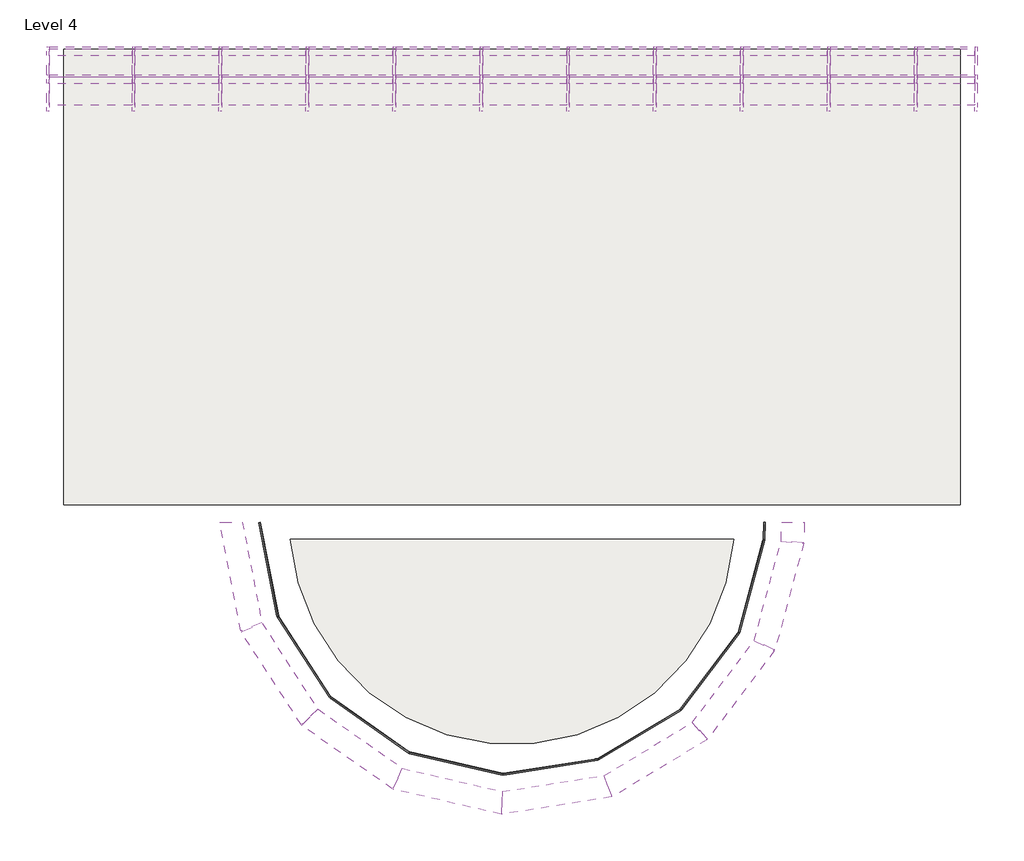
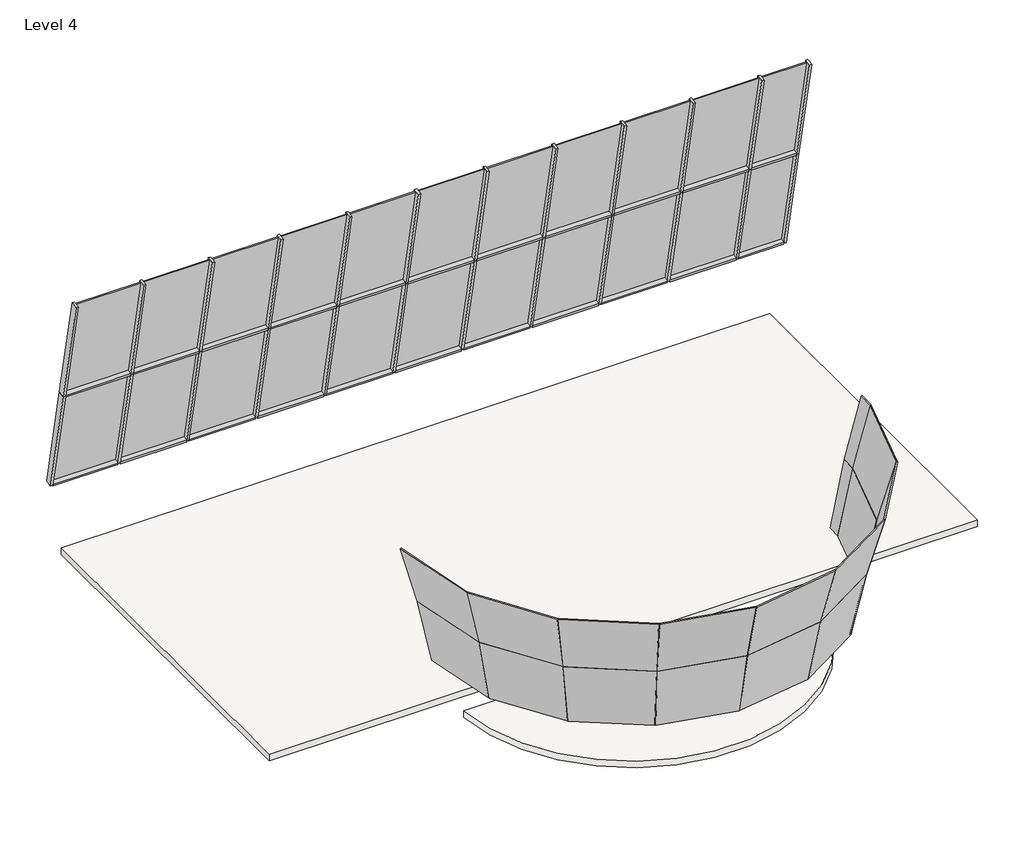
# One storey: 46 members, 40 plates, 2 slabs.
"""IFC4 building model written with IfcOpenShell, lengths in millimetres."""

from ifc_helpers import new_model, si_unit, point, frame, frame_2d, origin, place, context, project, spatial, polyline, circle_curve, trimmed, segment, composite_curve, outline, extrude, transform, mapped, element, save
from components import rectangular_mullion_50_x_150mm_662c37b1, rectangular_mullion_50_x_150mm_1f4d75dd, rectangular_mullion_50_x_150mm_f0154c62, rectangular_mullion_50_x_150mm_b8d1d5e0, rectangular_mullion_50_x_150mm_6225e4e3, system_panel_glazed_129cb0d4, system_panel_glazed_b38f2dba, system_panel_glazed_1b308fc3, system_panel_glazed_42407800, system_panel_glazed_b83901a0, system_panel_glazed_fd0177c3, system_panel_glazed_b045e314

model = new_model("IFC4")

# Units and contexts
model_context = context("Model", 3, world=origin())
ifc_project = project(units=[si_unit("LENGTHUNIT", "METRE", prefix="MILLI")], contexts=[model_context])

# Site, building, storey
site = spatial("IfcSite", under=ifc_project)
building = spatial("IfcBuilding", under=site)
storey = spatial("IfcBuildingStorey", under=building, Name="Level 4", Elevation=12000.0)

# Members
placement = place(None, origin())
rectangular_mullion_50_x_150mm_shape = rectangular_mullion_50_x_150mm_662c37b1(model_context)
element("IfcMember", 1, ObjectType="Rectangular Mullion : 50 x 150mm", at=placement, inside=storey, context=model_context, shape_type="MappedRepresentation", body=[
    mapped(rectangular_mullion_50_x_150mm_shape, transform((7953.3508723, 6033.5148558, 15962.2496377), x_axis=(1.0, 0.0, 0.0), y_axis=(0.0, 0.9794896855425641, 0.20149430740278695), z_axis=(0.0, -0.20149430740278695, 0.9794896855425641))),
])
element("IfcMember", 2, ObjectType="Rectangular Mullion : 50 x 150mm", at=placement, inside=storey, context=model_context, shape_type="MappedRepresentation", body=[
    mapped(rectangular_mullion_50_x_150mm_shape, transform((7953.3508723, 5549.9285181, 18313.024883), x_axis=(1.0, 0.0, 0.0), y_axis=(0.0, 0.9794896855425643, 0.20149430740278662), z_axis=(0.0, -0.20149430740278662, 0.9794896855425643))),
])
element("IfcMember", 3, ObjectType="Rectangular Mullion : 50 x 150mm", at=placement, inside=storey, context=model_context, shape_type="MappedRepresentation", body=[
    mapped(rectangular_mullion_50_x_150mm_shape, transform((-8113.532296, 6517.1011936, 13611.4743924), x_axis=(-1.0, 0.0, 0.0), y_axis=(0.0, 0.9794896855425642, 0.20149430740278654), z_axis=(0.0, 0.2014943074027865, -0.9794896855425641))),
])
element("IfcMember", 4, ObjectType="Rectangular Mullion : 50 x 150mm", at=placement, inside=storey, context=model_context, shape_type="MappedRepresentation", body=[
    mapped(rectangular_mullion_50_x_150mm_shape, transform((-8113.532296, 6033.5148558, 15962.2496377), x_axis=(-1.0, 0.0, 0.0), y_axis=(0.0, 0.9794896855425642, 0.20149430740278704), z_axis=(0.0, 0.20149430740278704, -0.9794896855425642))),
])
rectangular_mullion_50_x_150mm_2_shape = rectangular_mullion_50_x_150mm_1f4d75dd(model_context)
element("IfcMember", 5, ObjectType="Rectangular Mullion : 50 x 150mm", at=placement, inside=storey, context=model_context, shape_type="MappedRepresentation", body=[
    mapped(rectangular_mullion_50_x_150mm_2_shape, transform((-8063.532296, 6517.1011936, 13611.4743924), x_axis=(0.0, -0.2014943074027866, 0.9794896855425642), y_axis=(0.0, 0.9794896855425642, 0.2014943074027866), z_axis=(-1.0, 0.0, 0.0))),
])
element("IfcMember", 6, ObjectType="Rectangular Mullion : 50 x 150mm", at=placement, inside=storey, context=model_context, shape_type="MappedRepresentation", body=[
    mapped(rectangular_mullion_50_x_150mm_2_shape, transform((-8063.532296, 6033.5148558, 15962.2496377), x_axis=(0.0, -0.2014943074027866, 0.9794896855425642), y_axis=(0.0, 0.9794896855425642, 0.2014943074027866), z_axis=(-1.0, 0.0, 0.0))),
])
rectangular_mullion_50_x_150mm_3_shape = rectangular_mullion_50_x_150mm_f0154c62(model_context)
element("IfcMember", 7, ObjectType="Rectangular Mullion : 50 x 150mm", at=placement, inside=storey, context=model_context, shape_type="MappedRepresentation", body=[
    mapped(rectangular_mullion_50_x_150mm_3_shape, transform((-6588.532296, 6517.1011936, 13611.4743924), x_axis=(0.0, -0.2014943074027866, 0.9794896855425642), y_axis=(0.0, 0.9794896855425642, 0.2014943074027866), z_axis=(-1.0, 0.0, 0.0))),
])
element("IfcMember", 8, ObjectType="Rectangular Mullion : 50 x 150mm", at=placement, inside=storey, context=model_context, shape_type="MappedRepresentation", body=[
    mapped(rectangular_mullion_50_x_150mm_3_shape, transform((-5088.532296, 6517.1011936, 13611.4743924), x_axis=(0.0, -0.2014943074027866, 0.9794896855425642), y_axis=(0.0, 0.9794896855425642, 0.2014943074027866), z_axis=(-1.0, 0.0, 0.0))),
])
element("IfcMember", 9, ObjectType="Rectangular Mullion : 50 x 150mm", at=placement, inside=storey, context=model_context, shape_type="MappedRepresentation", body=[
    mapped(rectangular_mullion_50_x_150mm_3_shape, transform((-3588.532296, 6517.1011936, 13611.4743924), x_axis=(0.0, -0.2014943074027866, 0.9794896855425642), y_axis=(0.0, 0.9794896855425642, 0.2014943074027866), z_axis=(-1.0, 0.0, 0.0))),
])
element("IfcMember", 10, ObjectType="Rectangular Mullion : 50 x 150mm", at=placement, inside=storey, context=model_context, shape_type="MappedRepresentation", body=[
    mapped(rectangular_mullion_50_x_150mm_3_shape, transform((-2088.532296, 6517.1011936, 13611.4743924), x_axis=(0.0, -0.2014943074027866, 0.9794896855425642), y_axis=(0.0, 0.9794896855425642, 0.2014943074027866), z_axis=(-1.0, 0.0, 0.0))),
])
element("IfcMember", 11, ObjectType="Rectangular Mullion : 50 x 150mm", at=placement, inside=storey, context=model_context, shape_type="MappedRepresentation", body=[
    mapped(rectangular_mullion_50_x_150mm_3_shape, transform((-588.532296, 6517.1011936, 13611.4743924), x_axis=(0.0, -0.2014943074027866, 0.9794896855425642), y_axis=(0.0, 0.9794896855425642, 0.2014943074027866), z_axis=(-1.0, 0.0, 0.0))),
])
element("IfcMember", 12, ObjectType="Rectangular Mullion : 50 x 150mm", at=placement, inside=storey, context=model_context, shape_type="MappedRepresentation", body=[
    mapped(rectangular_mullion_50_x_150mm_3_shape, transform((911.467704, 6517.1011936, 13611.4743924), x_axis=(0.0, -0.2014943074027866, 0.9794896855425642), y_axis=(0.0, 0.9794896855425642, 0.2014943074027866), z_axis=(-1.0, 0.0, 0.0))),
])
element("IfcMember", 13, ObjectType="Rectangular Mullion : 50 x 150mm", at=placement, inside=storey, context=model_context, shape_type="MappedRepresentation", body=[
    mapped(rectangular_mullion_50_x_150mm_3_shape, transform((2411.467704, 6517.1011936, 13611.4743924), x_axis=(0.0, -0.2014943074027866, 0.9794896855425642), y_axis=(0.0, 0.9794896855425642, 0.2014943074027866), z_axis=(-1.0, 0.0, 0.0))),
])
element("IfcMember", 14, ObjectType="Rectangular Mullion : 50 x 150mm", at=placement, inside=storey, context=model_context, shape_type="MappedRepresentation", body=[
    mapped(rectangular_mullion_50_x_150mm_3_shape, transform((3911.467704, 6517.1011936, 13611.4743924), x_axis=(0.0, -0.2014943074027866, 0.9794896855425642), y_axis=(0.0, 0.9794896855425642, 0.2014943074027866), z_axis=(-1.0, 0.0, 0.0))),
])
element("IfcMember", 15, ObjectType="Rectangular Mullion : 50 x 150mm", at=placement, inside=storey, context=model_context, shape_type="MappedRepresentation", body=[
    mapped(rectangular_mullion_50_x_150mm_3_shape, transform((5411.467704, 6517.1011936, 13611.4743924), x_axis=(0.0, -0.2014943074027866, 0.9794896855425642), y_axis=(0.0, 0.9794896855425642, 0.2014943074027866), z_axis=(-1.0, 0.0, 0.0))),
])
element("IfcMember", 16, ObjectType="Rectangular Mullion : 50 x 150mm", at=placement, inside=storey, context=model_context, shape_type="MappedRepresentation", body=[
    mapped(rectangular_mullion_50_x_150mm_3_shape, transform((-6588.532296, 6033.5148558, 15962.2496377), x_axis=(0.0, -0.2014943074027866, 0.9794896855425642), y_axis=(0.0, 0.9794896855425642, 0.2014943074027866), z_axis=(-1.0, 0.0, 0.0))),
])
element("IfcMember", 17, ObjectType="Rectangular Mullion : 50 x 150mm", at=placement, inside=storey, context=model_context, shape_type="MappedRepresentation", body=[
    mapped(rectangular_mullion_50_x_150mm_3_shape, transform((-5088.532296, 6033.5148558, 15962.2496377), x_axis=(0.0, -0.2014943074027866, 0.9794896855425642), y_axis=(0.0, 0.9794896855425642, 0.2014943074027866), z_axis=(-1.0, 0.0, 0.0))),
])
element("IfcMember", 18, ObjectType="Rectangular Mullion : 50 x 150mm", at=placement, inside=storey, context=model_context, shape_type="MappedRepresentation", body=[
    mapped(rectangular_mullion_50_x_150mm_3_shape, transform((-3588.532296, 6033.5148558, 15962.2496377), x_axis=(0.0, -0.2014943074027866, 0.9794896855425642), y_axis=(0.0, 0.9794896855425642, 0.2014943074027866), z_axis=(-1.0, 0.0, 0.0))),
])
element("IfcMember", 19, ObjectType="Rectangular Mullion : 50 x 150mm", at=placement, inside=storey, context=model_context, shape_type="MappedRepresentation", body=[
    mapped(rectangular_mullion_50_x_150mm_3_shape, transform((-2088.532296, 6033.5148558, 15962.2496377), x_axis=(0.0, -0.2014943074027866, 0.9794896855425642), y_axis=(0.0, 0.9794896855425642, 0.2014943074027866), z_axis=(-1.0, 0.0, 0.0))),
])
element("IfcMember", 20, ObjectType="Rectangular Mullion : 50 x 150mm", at=placement, inside=storey, context=model_context, shape_type="MappedRepresentation", body=[
    mapped(rectangular_mullion_50_x_150mm_3_shape, transform((-588.532296, 6033.5148558, 15962.2496377), x_axis=(0.0, -0.2014943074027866, 0.9794896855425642), y_axis=(0.0, 0.9794896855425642, 0.2014943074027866), z_axis=(-1.0, 0.0, 0.0))),
])
element("IfcMember", 21, ObjectType="Rectangular Mullion : 50 x 150mm", at=placement, inside=storey, context=model_context, shape_type="MappedRepresentation", body=[
    mapped(rectangular_mullion_50_x_150mm_3_shape, transform((911.467704, 6033.5148558, 15962.2496377), x_axis=(0.0, -0.2014943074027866, 0.9794896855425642), y_axis=(0.0, 0.9794896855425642, 0.2014943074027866), z_axis=(-1.0, 0.0, 0.0))),
])
element("IfcMember", 22, ObjectType="Rectangular Mullion : 50 x 150mm", at=placement, inside=storey, context=model_context, shape_type="MappedRepresentation", body=[
    mapped(rectangular_mullion_50_x_150mm_3_shape, transform((2411.467704, 6033.5148558, 15962.2496377), x_axis=(0.0, -0.2014943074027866, 0.9794896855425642), y_axis=(0.0, 0.9794896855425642, 0.2014943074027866), z_axis=(-1.0, 0.0, 0.0))),
])
element("IfcMember", 23, ObjectType="Rectangular Mullion : 50 x 150mm", at=placement, inside=storey, context=model_context, shape_type="MappedRepresentation", body=[
    mapped(rectangular_mullion_50_x_150mm_3_shape, transform((3911.467704, 6033.5148558, 15962.2496377), x_axis=(0.0, -0.2014943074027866, 0.9794896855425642), y_axis=(0.0, 0.9794896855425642, 0.2014943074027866), z_axis=(-1.0, 0.0, 0.0))),
])
element("IfcMember", 24, ObjectType="Rectangular Mullion : 50 x 150mm", at=placement, inside=storey, context=model_context, shape_type="MappedRepresentation", body=[
    mapped(rectangular_mullion_50_x_150mm_3_shape, transform((5411.467704, 6033.5148558, 15962.2496377), x_axis=(0.0, -0.2014943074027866, 0.9794896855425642), y_axis=(0.0, 0.9794896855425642, 0.2014943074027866), z_axis=(-1.0, 0.0, 0.0))),
])
rectangular_mullion_50_x_150mm_4_shape = rectangular_mullion_50_x_150mm_b8d1d5e0(model_context)
element("IfcMember", 25, ObjectType="Rectangular Mullion : 50 x 150mm", at=placement, inside=storey, context=model_context, shape_type="MappedRepresentation", body=[
    mapped(rectangular_mullion_50_x_150mm_4_shape, transform((6911.467704, 6517.1011936, 13611.4743924), x_axis=(0.0, -0.2014943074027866, 0.9794896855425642), y_axis=(0.0, 0.9794896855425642, 0.2014943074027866), z_axis=(-1.0, 0.0, 0.0))),
])
element("IfcMember", 26, ObjectType="Rectangular Mullion : 50 x 150mm", at=placement, inside=storey, context=model_context, shape_type="MappedRepresentation", body=[
    mapped(rectangular_mullion_50_x_150mm_4_shape, transform((6911.467704, 6033.5148558, 15962.2496377), x_axis=(0.0, -0.2014943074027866, 0.9794896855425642), y_axis=(0.0, 0.9794896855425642, 0.2014943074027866), z_axis=(-1.0, 0.0, 0.0))),
])
rectangular_mullion_50_x_150mm_5_shape = rectangular_mullion_50_x_150mm_6225e4e3(model_context)
element("IfcMember", 27, ObjectType="Rectangular Mullion : 50 x 150mm", at=placement, inside=storey, context=model_context, shape_type="MappedRepresentation", body=[
    mapped(rectangular_mullion_50_x_150mm_5_shape, transform((-6613.532296, 6033.5148558, 15962.2496377), x_axis=(1.0, 0.0, 0.0), y_axis=(0.0, 0.9794896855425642, 0.2014943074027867), z_axis=(0.0, -0.2014943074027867, 0.9794896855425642))),
])
element("IfcMember", 28, ObjectType="Rectangular Mullion : 50 x 150mm", at=placement, inside=storey, context=model_context, shape_type="MappedRepresentation", body=[
    mapped(rectangular_mullion_50_x_150mm_5_shape, transform((-5113.532296, 6033.5148558, 15962.2496377), x_axis=(1.0, 0.0, 0.0), y_axis=(0.0, 0.9794896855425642, 0.2014943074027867), z_axis=(0.0, -0.2014943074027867, 0.9794896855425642))),
])
element("IfcMember", 29, ObjectType="Rectangular Mullion : 50 x 150mm", at=placement, inside=storey, context=model_context, shape_type="MappedRepresentation", body=[
    mapped(rectangular_mullion_50_x_150mm_5_shape, transform((-3613.532296, 6033.5148558, 15962.2496377), x_axis=(1.0, 0.0, 0.0), y_axis=(0.0, 0.9794896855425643, 0.2014943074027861), z_axis=(0.0, -0.20149430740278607, 0.9794896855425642))),
])
element("IfcMember", 30, ObjectType="Rectangular Mullion : 50 x 150mm", at=placement, inside=storey, context=model_context, shape_type="MappedRepresentation", body=[
    mapped(rectangular_mullion_50_x_150mm_5_shape, transform((-2113.532296, 6033.5148558, 15962.2496377), x_axis=(1.0, 0.0, 0.0), y_axis=(0.0, 0.9794896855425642, 0.2014943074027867), z_axis=(0.0, -0.2014943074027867, 0.9794896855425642))),
])
element("IfcMember", 31, ObjectType="Rectangular Mullion : 50 x 150mm", at=placement, inside=storey, context=model_context, shape_type="MappedRepresentation", body=[
    mapped(rectangular_mullion_50_x_150mm_5_shape, transform((-613.532296, 6033.5148558, 15962.2496377), x_axis=(1.0, 0.0, 0.0), y_axis=(0.0, 0.9794896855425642, 0.2014943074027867), z_axis=(0.0, -0.2014943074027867, 0.9794896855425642))),
])
element("IfcMember", 32, ObjectType="Rectangular Mullion : 50 x 150mm", at=placement, inside=storey, context=model_context, shape_type="MappedRepresentation", body=[
    mapped(rectangular_mullion_50_x_150mm_5_shape, transform((886.467704, 6033.5148558, 15962.2496377), x_axis=(1.0, 0.0, 0.0), y_axis=(0.0, 0.9794896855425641, 0.20149430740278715), z_axis=(0.0, -0.20149430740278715, 0.9794896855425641))),
])
element("IfcMember", 33, ObjectType="Rectangular Mullion : 50 x 150mm", at=placement, inside=storey, context=model_context, shape_type="MappedRepresentation", body=[
    mapped(rectangular_mullion_50_x_150mm_5_shape, transform((2386.467704, 6033.5148558, 15962.2496377), x_axis=(1.0, 0.0, 0.0), y_axis=(0.0, 0.9794896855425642, 0.2014943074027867), z_axis=(0.0, -0.2014943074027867, 0.9794896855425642))),
])
element("IfcMember", 34, ObjectType="Rectangular Mullion : 50 x 150mm", at=placement, inside=storey, context=model_context, shape_type="MappedRepresentation", body=[
    mapped(rectangular_mullion_50_x_150mm_5_shape, transform((3886.467704, 6033.5148558, 15962.2496377), x_axis=(1.0, 0.0, 0.0), y_axis=(0.0, 0.9794896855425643, 0.2014943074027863), z_axis=(0.0, -0.2014943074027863, 0.9794896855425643))),
])
element("IfcMember", 35, ObjectType="Rectangular Mullion : 50 x 150mm", at=placement, inside=storey, context=model_context, shape_type="MappedRepresentation", body=[
    mapped(rectangular_mullion_50_x_150mm_5_shape, transform((5386.467704, 6033.5148558, 15962.2496377), x_axis=(1.0, 0.0, 0.0), y_axis=(0.0, 0.9794896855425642, 0.2014943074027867), z_axis=(0.0, -0.2014943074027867, 0.9794896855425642))),
])
element("IfcMember", 36, ObjectType="Rectangular Mullion : 50 x 150mm", at=placement, inside=storey, context=model_context, shape_type="MappedRepresentation", body=[
    mapped(rectangular_mullion_50_x_150mm_5_shape, transform((6886.467704, 6033.5148558, 15962.2496377), x_axis=(1.0, 0.0, 0.0), y_axis=(0.0, 0.9794896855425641, 0.20149430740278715), z_axis=(0.0, -0.20149430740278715, 0.9794896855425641))),
])
element("IfcMember", 37, ObjectType="Rectangular Mullion : 50 x 150mm", at=placement, inside=storey, context=model_context, shape_type="MappedRepresentation", body=[
    mapped(rectangular_mullion_50_x_150mm_5_shape, transform((-6613.532296, 5549.9285181, 18313.024883), x_axis=(1.0, 0.0, 0.0), y_axis=(0.0, 0.9794896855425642, 0.20149430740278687), z_axis=(0.0, -0.20149430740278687, 0.9794896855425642))),
])
element("IfcMember", 38, ObjectType="Rectangular Mullion : 50 x 150mm", at=placement, inside=storey, context=model_context, shape_type="MappedRepresentation", body=[
    mapped(rectangular_mullion_50_x_150mm_5_shape, transform((-5113.532296, 5549.9285181, 18313.024883), x_axis=(1.0, 0.0, 0.0), y_axis=(0.0, 0.9794896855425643, 0.20149430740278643), z_axis=(0.0, -0.20149430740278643, 0.9794896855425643))),
])
element("IfcMember", 39, ObjectType="Rectangular Mullion : 50 x 150mm", at=placement, inside=storey, context=model_context, shape_type="MappedRepresentation", body=[
    mapped(rectangular_mullion_50_x_150mm_5_shape, transform((-3613.532296, 5549.9285181, 18313.024883), x_axis=(1.0, 0.0, 0.0), y_axis=(0.0, 0.9794896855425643, 0.20149430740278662), z_axis=(0.0, -0.20149430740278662, 0.9794896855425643))),
])
element("IfcMember", 40, ObjectType="Rectangular Mullion : 50 x 150mm", at=placement, inside=storey, context=model_context, shape_type="MappedRepresentation", body=[
    mapped(rectangular_mullion_50_x_150mm_5_shape, transform((-2113.532296, 5549.9285181, 18313.024883), x_axis=(1.0, 0.0, 0.0), y_axis=(0.0, 0.9794896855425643, 0.20149430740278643), z_axis=(0.0, -0.20149430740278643, 0.9794896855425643))),
])
element("IfcMember", 41, ObjectType="Rectangular Mullion : 50 x 150mm", at=placement, inside=storey, context=model_context, shape_type="MappedRepresentation", body=[
    mapped(rectangular_mullion_50_x_150mm_5_shape, transform((-613.532296, 5549.9285181, 18313.024883), x_axis=(1.0, 0.0, 0.0), y_axis=(0.0, 0.9794896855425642, 0.20149430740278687), z_axis=(0.0, -0.20149430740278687, 0.9794896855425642))),
])
element("IfcMember", 42, ObjectType="Rectangular Mullion : 50 x 150mm", at=placement, inside=storey, context=model_context, shape_type="MappedRepresentation", body=[
    mapped(rectangular_mullion_50_x_150mm_5_shape, transform((886.467704, 5549.9285181, 18313.024883), x_axis=(1.0, 0.0, 0.0), y_axis=(0.0, 0.9794896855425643, 0.20149430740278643), z_axis=(0.0, -0.20149430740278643, 0.9794896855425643))),
])
element("IfcMember", 43, ObjectType="Rectangular Mullion : 50 x 150mm", at=placement, inside=storey, context=model_context, shape_type="MappedRepresentation", body=[
    mapped(rectangular_mullion_50_x_150mm_5_shape, transform((2386.467704, 5549.9285181, 18313.024883), x_axis=(1.0, 0.0, 0.0), y_axis=(0.0, 0.9794896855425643, 0.20149430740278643), z_axis=(0.0, -0.20149430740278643, 0.9794896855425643))),
])
element("IfcMember", 44, ObjectType="Rectangular Mullion : 50 x 150mm", at=placement, inside=storey, context=model_context, shape_type="MappedRepresentation", body=[
    mapped(rectangular_mullion_50_x_150mm_5_shape, transform((3886.467704, 5549.9285181, 18313.024883), x_axis=(1.0, 0.0, 0.0), y_axis=(0.0, 0.9794896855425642, 0.20149430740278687), z_axis=(0.0, -0.20149430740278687, 0.9794896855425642))),
])
element("IfcMember", 45, ObjectType="Rectangular Mullion : 50 x 150mm", at=placement, inside=storey, context=model_context, shape_type="MappedRepresentation", body=[
    mapped(rectangular_mullion_50_x_150mm_5_shape, transform((5386.467704, 5549.9285181, 18313.024883), x_axis=(1.0, 0.0, 0.0), y_axis=(0.0, 0.9794896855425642, 0.20149430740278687), z_axis=(0.0, -0.20149430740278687, 0.9794896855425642))),
])
element("IfcMember", 46, ObjectType="Rectangular Mullion : 50 x 150mm", at=placement, inside=storey, context=model_context, shape_type="MappedRepresentation", body=[
    mapped(rectangular_mullion_50_x_150mm_5_shape, transform((6886.467704, 5549.9285181, 18313.024883), x_axis=(1.0, 0.0, 0.0), y_axis=(0.0, 0.9794896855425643, 0.20149430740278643), z_axis=(0.0, -0.20149430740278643, 0.9794896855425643))),
])

# Plates
system_panel_glazed_shape = system_panel_glazed_129cb0d4(model_context)
element("IfcPlate", 47, ObjectType="System Panel : Glazed", at=placement, inside=storey, context=model_context, shape_type="MappedRepresentation", body=[
    mapped(system_panel_glazed_shape, transform((-7351.032296, 6512.0638359, 13635.9616345), x_axis=(1.0, 0.0, 0.0), y_axis=(0.0, 0.9794896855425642, 0.2014943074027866), z_axis=(0.0, -0.2014943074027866, 0.9794896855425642))),
])
element("IfcPlate", 48, ObjectType="System Panel : Glazed", at=placement, inside=storey, context=model_context, shape_type="MappedRepresentation", body=[
    mapped(system_panel_glazed_shape, transform((-7351.032296, 6028.4774982, 15986.7368798), x_axis=(1.0, 0.0, 0.0), y_axis=(0.0, 0.9794896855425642, 0.2014943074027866), z_axis=(0.0, -0.2014943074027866, 0.9794896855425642))),
])
system_panel_glazed_2_shape = system_panel_glazed_b38f2dba(model_context)
element("IfcPlate", 49, ObjectType="System Panel : Glazed", at=placement, inside=storey, context=model_context, shape_type="MappedRepresentation", body=[
    mapped(system_panel_glazed_2_shape, transform((-5863.532296, 6512.0638359, 13635.9616345), x_axis=(1.0, 0.0, 0.0), y_axis=(0.0, 0.9794896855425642, 0.2014943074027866), z_axis=(0.0, -0.2014943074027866, 0.9794896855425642))),
])
element("IfcPlate", 50, ObjectType="System Panel : Glazed", at=placement, inside=storey, context=model_context, shape_type="MappedRepresentation", body=[
    mapped(system_panel_glazed_2_shape, transform((-4363.532296, 6512.0638359, 13635.9616345), x_axis=(1.0, 0.0, 0.0), y_axis=(0.0, 0.9794896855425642, 0.2014943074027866), z_axis=(0.0, -0.2014943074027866, 0.9794896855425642))),
])
element("IfcPlate", 51, ObjectType="System Panel : Glazed", at=placement, inside=storey, context=model_context, shape_type="MappedRepresentation", body=[
    mapped(system_panel_glazed_2_shape, transform((-2863.532296, 6512.0638359, 13635.9616345), x_axis=(1.0, 0.0, 0.0), y_axis=(0.0, 0.9794896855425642, 0.2014943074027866), z_axis=(0.0, -0.2014943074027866, 0.9794896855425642))),
])
element("IfcPlate", 52, ObjectType="System Panel : Glazed", at=placement, inside=storey, context=model_context, shape_type="MappedRepresentation", body=[
    mapped(system_panel_glazed_2_shape, transform((-1363.532296, 6512.0638359, 13635.9616345), x_axis=(1.0, 0.0, 0.0), y_axis=(0.0, 0.9794896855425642, 0.2014943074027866), z_axis=(0.0, -0.2014943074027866, 0.9794896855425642))),
])
element("IfcPlate", 53, ObjectType="System Panel : Glazed", at=placement, inside=storey, context=model_context, shape_type="MappedRepresentation", body=[
    mapped(system_panel_glazed_2_shape, transform((136.467704, 6512.0638359, 13635.9616345), x_axis=(1.0, 0.0, 0.0), y_axis=(0.0, 0.9794896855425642, 0.2014943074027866), z_axis=(0.0, -0.2014943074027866, 0.9794896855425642))),
])
element("IfcPlate", 54, ObjectType="System Panel : Glazed", at=placement, inside=storey, context=model_context, shape_type="MappedRepresentation", body=[
    mapped(system_panel_glazed_2_shape, transform((1636.467704, 6512.0638359, 13635.9616345), x_axis=(1.0, 0.0, 0.0), y_axis=(0.0, 0.9794896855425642, 0.2014943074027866), z_axis=(0.0, -0.2014943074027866, 0.9794896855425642))),
])
element("IfcPlate", 55, ObjectType="System Panel : Glazed", at=placement, inside=storey, context=model_context, shape_type="MappedRepresentation", body=[
    mapped(system_panel_glazed_2_shape, transform((3136.467704, 6512.0638359, 13635.9616345), x_axis=(1.0, 0.0, 0.0), y_axis=(0.0, 0.9794896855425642, 0.2014943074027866), z_axis=(0.0, -0.2014943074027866, 0.9794896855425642))),
])
element("IfcPlate", 56, ObjectType="System Panel : Glazed", at=placement, inside=storey, context=model_context, shape_type="MappedRepresentation", body=[
    mapped(system_panel_glazed_2_shape, transform((4636.467704, 6512.0638359, 13635.9616345), x_axis=(1.0, 0.0, 0.0), y_axis=(0.0, 0.9794896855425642, 0.2014943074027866), z_axis=(0.0, -0.2014943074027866, 0.9794896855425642))),
])
element("IfcPlate", 57, ObjectType="System Panel : Glazed", at=placement, inside=storey, context=model_context, shape_type="MappedRepresentation", body=[
    mapped(system_panel_glazed_2_shape, transform((6136.467704, 6512.0638359, 13635.9616345), x_axis=(1.0, 0.0, 0.0), y_axis=(0.0, 0.9794896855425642, 0.2014943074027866), z_axis=(0.0, -0.2014943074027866, 0.9794896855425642))),
])
element("IfcPlate", 58, ObjectType="System Panel : Glazed", at=placement, inside=storey, context=model_context, shape_type="MappedRepresentation", body=[
    mapped(system_panel_glazed_2_shape, transform((-5863.532296, 6028.4774982, 15986.7368798), x_axis=(1.0, 0.0, 0.0), y_axis=(0.0, 0.9794896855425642, 0.2014943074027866), z_axis=(0.0, -0.2014943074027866, 0.9794896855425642))),
])
element("IfcPlate", 59, ObjectType="System Panel : Glazed", at=placement, inside=storey, context=model_context, shape_type="MappedRepresentation", body=[
    mapped(system_panel_glazed_2_shape, transform((-4363.532296, 6028.4774982, 15986.7368798), x_axis=(1.0, 0.0, 0.0), y_axis=(0.0, 0.9794896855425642, 0.2014943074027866), z_axis=(0.0, -0.2014943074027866, 0.9794896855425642))),
])
element("IfcPlate", 60, ObjectType="System Panel : Glazed", at=placement, inside=storey, context=model_context, shape_type="MappedRepresentation", body=[
    mapped(system_panel_glazed_2_shape, transform((-2863.532296, 6028.4774982, 15986.7368798), x_axis=(1.0, 0.0, 0.0), y_axis=(0.0, 0.9794896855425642, 0.2014943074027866), z_axis=(0.0, -0.2014943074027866, 0.9794896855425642))),
])
element("IfcPlate", 61, ObjectType="System Panel : Glazed", at=placement, inside=storey, context=model_context, shape_type="MappedRepresentation", body=[
    mapped(system_panel_glazed_2_shape, transform((-1363.532296, 6028.4774982, 15986.7368798), x_axis=(1.0, 0.0, 0.0), y_axis=(0.0, 0.9794896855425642, 0.2014943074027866), z_axis=(0.0, -0.2014943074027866, 0.9794896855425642))),
])
element("IfcPlate", 62, ObjectType="System Panel : Glazed", at=placement, inside=storey, context=model_context, shape_type="MappedRepresentation", body=[
    mapped(system_panel_glazed_2_shape, transform((136.467704, 6028.4774982, 15986.7368798), x_axis=(1.0, 0.0, 0.0), y_axis=(0.0, 0.9794896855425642, 0.2014943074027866), z_axis=(0.0, -0.2014943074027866, 0.9794896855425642))),
])
element("IfcPlate", 63, ObjectType="System Panel : Glazed", at=placement, inside=storey, context=model_context, shape_type="MappedRepresentation", body=[
    mapped(system_panel_glazed_2_shape, transform((1636.467704, 6028.4774982, 15986.7368798), x_axis=(1.0, 0.0, 0.0), y_axis=(0.0, 0.9794896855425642, 0.2014943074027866), z_axis=(0.0, -0.2014943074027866, 0.9794896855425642))),
])
element("IfcPlate", 64, ObjectType="System Panel : Glazed", at=placement, inside=storey, context=model_context, shape_type="MappedRepresentation", body=[
    mapped(system_panel_glazed_2_shape, transform((3136.467704, 6028.4774982, 15986.7368798), x_axis=(1.0, 0.0, 0.0), y_axis=(0.0, 0.9794896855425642, 0.2014943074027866), z_axis=(0.0, -0.2014943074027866, 0.9794896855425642))),
])
element("IfcPlate", 65, ObjectType="System Panel : Glazed", at=placement, inside=storey, context=model_context, shape_type="MappedRepresentation", body=[
    mapped(system_panel_glazed_2_shape, transform((4636.467704, 6028.4774982, 15986.7368798), x_axis=(1.0, 0.0, 0.0), y_axis=(0.0, 0.9794896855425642, 0.2014943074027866), z_axis=(0.0, -0.2014943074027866, 0.9794896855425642))),
])
element("IfcPlate", 66, ObjectType="System Panel : Glazed", at=placement, inside=storey, context=model_context, shape_type="MappedRepresentation", body=[
    mapped(system_panel_glazed_2_shape, transform((6136.467704, 6028.4774982, 15986.7368798), x_axis=(1.0, 0.0, 0.0), y_axis=(0.0, 0.9794896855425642, 0.2014943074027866), z_axis=(0.0, -0.2014943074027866, 0.9794896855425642))),
])
system_panel_glazed_3_shape = system_panel_glazed_1b308fc3(model_context)
element("IfcPlate", 67, ObjectType="System Panel : Glazed", at=placement, inside=storey, context=model_context, shape_type="MappedRepresentation", body=[
    mapped(system_panel_glazed_3_shape, transform((7407.4092881, 6512.0638359, 13635.9616345), x_axis=(1.0, 0.0, 0.0), y_axis=(0.0, 0.9794896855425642, 0.2014943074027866), z_axis=(0.0, -0.2014943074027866, 0.9794896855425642))),
])
element("IfcPlate", 68, ObjectType="System Panel : Glazed", at=placement, inside=storey, context=model_context, shape_type="MappedRepresentation", body=[
    mapped(system_panel_glazed_3_shape, transform((7407.4092881, 6028.4774982, 15986.7368798), x_axis=(1.0, 0.0, 0.0), y_axis=(0.0, 0.9794896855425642, 0.2014943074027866), z_axis=(0.0, -0.2014943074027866, 0.9794896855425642))),
])
system_panel_glazed_4_shape = system_panel_glazed_42407800(model_context)
element("IfcPlate", 69, ObjectType="System Panel : Glazed", at=placement, inside=storey, context=model_context, shape_type="MappedRepresentation", body=[
    mapped(system_panel_glazed_4_shape, transform((4233.6918473, -1762.9217601, 13188.7320536), x_axis=(0.03540308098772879, 0.9993731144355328, 0.0), y_axis=(-0.977597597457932, 0.03463167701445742, 0.20761402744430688), z_axis=(0.2074838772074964, -0.007350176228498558, 0.9782108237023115))),
])
system_panel_glazed_5_shape = system_panel_glazed_b83901a0(model_context)
element("IfcPlate", 70, ObjectType="System Panel : Glazed", at=placement, inside=storey, context=model_context, shape_type="MappedRepresentation", body=[
    mapped(system_panel_glazed_5_shape, transform((4544.9092481, -1773.9466694, 14656.0086058), x_axis=(0.035403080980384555, 0.9993731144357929, 1.975832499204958e-12), y_axis=(-0.9637169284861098, 0.03413995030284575, 0.26473410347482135), z_axis=(0.2645681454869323, -0.00937240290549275, 0.9643214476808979))),
])
system_panel_glazed_6_shape = system_panel_glazed_fd0177c3(model_context)
element("IfcPlate", 71, ObjectType="System Panel : Glazed", at=placement, inside=storey, context=model_context, shape_type="MappedRepresentation", body=[
    mapped(system_panel_glazed_6_shape, transform((-4242.1350555, -2418.8530049, 13188.7320536), x_axis=(0.19074722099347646, -0.9816391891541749, 0.0), y_axis=(0.9609788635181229, 0.18673260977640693, 0.20408467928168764), z_axis=(-0.20033751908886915, -0.03892858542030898, 0.9789532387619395))),
])
element("IfcPlate", 72, ObjectType="System Panel : Glazed", at=placement, inside=storey, context=model_context, shape_type="MappedRepresentation", body=[
    mapped(system_panel_glazed_6_shape, transform((-2513.0861309, -5082.456121, 13188.7320536), x_axis=(0.8189714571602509, -0.5738342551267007, 0.0), y_axis=(0.5617569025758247, 0.8017347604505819, 0.20408467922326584), z_axis=(-0.11711077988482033, -0.16713952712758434, 0.9789532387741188))),
])
element("IfcPlate", 73, ObjectType="System Panel : Glazed", at=placement, inside=storey, context=model_context, shape_type="MappedRepresentation", body=[
    mapped(system_panel_glazed_6_shape, transform((580.8015674, -5798.1727286, 13188.7320536), x_axis=(0.9877768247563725, 0.1558747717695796, 0.0), y_axis=(-0.1525941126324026, 0.9669873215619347, 0.2040846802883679), z_axis=(0.03181165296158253, -0.20159011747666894, 0.9789532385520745))),
])
element("IfcPlate", 74, ObjectType="System Panel : Glazed", at=placement, inside=storey, context=model_context, shape_type="MappedRepresentation", body=[
    mapped(system_panel_glazed_6_shape, transform((3303.9479683, -4164.5071756, 13188.7320536), x_axis=(0.6024685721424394, 0.7981426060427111, 0.0), y_axis=(-0.781344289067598, 0.5897885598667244, 0.20408467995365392), z_axis=(0.16288867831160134, -0.1229546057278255, 0.9789532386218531))),
])
element("IfcPlate", 75, ObjectType="System Panel : Glazed", at=placement, inside=storey, context=model_context, shape_type="MappedRepresentation", body=[
    mapped(system_panel_glazed_6_shape, transform((4014.2923561, -2711.3380115, 13188.7320536), x_axis=(0.2597312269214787, 0.9656809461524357, 0.0), y_axis=(-0.9453564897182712, 0.25426472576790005, 0.204084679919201), z_axis=(0.197080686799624, -0.0530071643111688, 0.9789532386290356))),
])
element("IfcPlate", 76, ObjectType="System Panel : Glazed", at=placement, inside=storey, context=model_context, shape_type="MappedRepresentation", body=[
    mapped(system_panel_glazed_6_shape, transform((2101.0975566, -5245.9139946, 13188.7320536), x_axis=(0.8575238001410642, 0.514444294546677, 0.0), y_axis=(-0.5036169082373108, 0.8394757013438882, 0.204084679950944), z_axis=(0.10499019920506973, -0.17500747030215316, 0.9789532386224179))),
])
element("IfcPlate", 77, ObjectType="System Panel : Glazed", at=placement, inside=storey, context=model_context, shape_type="MappedRepresentation", body=[
    mapped(system_panel_glazed_6_shape, transform((-1035.6794456, -5740.9087643, 13188.7320536), x_axis=(0.9742708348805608, -0.2253804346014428, 0.0), y_axis=(0.22063690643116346, 0.9537655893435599, 0.20408467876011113), z_axis=(-0.04599669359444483, -0.19883375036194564, 0.9789532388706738))),
])
element("IfcPlate", 78, ObjectType="System Panel : Glazed", at=placement, inside=storey, context=model_context, shape_type="MappedRepresentation", body=[
    mapped(system_panel_glazed_6_shape, transform((-3636.3995674, -3918.6446206, 13188.7320536), x_axis=(0.5444806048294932, -0.8387734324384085, 0.0), y_axis=(0.821119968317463, 0.5330210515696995, 0.2040846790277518), z_axis=(-0.17118080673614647, -0.11112014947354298, 0.9789532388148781))),
])
system_panel_glazed_7_shape = system_panel_glazed_b045e314(model_context)
element("IfcPlate", 79, ObjectType="System Panel : Glazed", at=placement, inside=storey, context=model_context, shape_type="MappedRepresentation", body=[
    mapped(system_panel_glazed_7_shape, transform((-4542.4053182, -2477.200011, 14656.0086058), x_axis=(0.19074722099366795, -0.9816391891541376, 0.0), y_axis=(0.9477846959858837, 0.18416878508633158, 0.2603575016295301), z_axis=(-0.2555771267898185, -0.04966246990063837, 0.9655122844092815))),
])
element("IfcPlate", 80, ObjectType="System Panel : Glazed", at=placement, inside=storey, context=model_context, shape_type="MappedRepresentation", body=[
    mapped(system_panel_glazed_7_shape, transform((-2688.6143364, -5332.9685016, 14656.0086058), x_axis=(0.818971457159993, -0.5738342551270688, 0.0), y_axis=(0.5540440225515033, 0.790727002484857, 0.26035750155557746), z_axis=(-0.14940205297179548, -0.21322536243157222, 0.9655122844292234))),
])
element("IfcPlate", 81, ObjectType="System Panel : Glazed", at=placement, inside=storey, context=model_context, shape_type="MappedRepresentation", body=[
    mapped(system_panel_glazed_7_shape, transform((628.4815735, -6100.3204107, 14656.0086058), x_axis=(0.9877768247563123, 0.15587477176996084, 0.0), y_axis=(-0.15049900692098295, 0.9537106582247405, 0.2603575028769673), z_axis=(0.04058316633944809, -0.2571751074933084, 0.9655122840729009))),
])
element("IfcPlate", 82, ObjectType="System Panel : Glazed", at=placement, inside=storey, context=model_context, shape_type="MappedRepresentation", body=[
    mapped(system_panel_glazed_7_shape, transform((3548.0890926, -4348.7942231, 14656.0086058), x_axis=(0.6024685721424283, 0.7981426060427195, 0.0), y_axis=(-0.7706164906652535, 0.5816908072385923, 0.26035750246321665), z_axis=(0.20780241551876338, -0.15685721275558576, 0.9655122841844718))),
])
element("IfcPlate", 83, ObjectType="System Panel : Glazed", at=placement, inside=storey, context=model_context, shape_type="MappedRepresentation", body=[
    mapped(system_panel_glazed_7_shape, transform((4309.6812026, -2790.7863204, 14656.0086058), x_axis=(0.2597312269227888, 0.9656809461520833, 0.0), y_axis=(-0.9323768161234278, 0.2507736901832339, 0.2603575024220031), z_axis=(0.2514222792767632, -0.0676229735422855, 0.9655122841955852))),
])
element("IfcPlate", 84, ObjectType="System Panel : Glazed", at=placement, inside=storey, context=model_context, shape_type="MappedRepresentation", body=[
    mapped(system_panel_glazed_7_shape, transform((2258.4591601, -5508.2190274, 14656.0086058), x_axis=(0.8575238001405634, 0.5144442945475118, 0.0), y_axis=(-0.49670228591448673, 0.8279497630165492, 0.2603575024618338), z_axis=(0.13393943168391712, -0.22326275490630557, 0.9655122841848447))),
])
element("IfcPlate", 85, ObjectType="System Panel : Glazed", at=placement, inside=storey, context=model_context, shape_type="MappedRepresentation", body=[
    mapped(system_panel_glazed_7_shape, transform((-1104.6202968, -6038.9251436, 14656.0086058), x_axis=(0.9742708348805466, -0.22538043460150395, 0.0), y_axis=(0.21760757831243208, 0.9406704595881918, 0.26035750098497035), z_axis=(-0.058679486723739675, -0.25365871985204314, 0.9655122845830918))),
])
element("IfcPlate", 86, ObjectType="System Panel : Glazed", at=placement, inside=storey, context=model_context, shape_type="MappedRepresentation", body=[
    mapped(system_panel_glazed_7_shape, transform((-3892.9691049, -4085.1939407, 14656.0086058), x_axis=(0.5444806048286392, -0.8387734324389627, 0.0), y_axis=(0.8098460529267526, 0.5257027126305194, 0.26035750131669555), z_axis=(-0.21838095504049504, -0.14175960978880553, 0.9655122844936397))),
])

# Slabs
element("IfcSlab", 87, ObjectType="Generic 150mm", at=placement, inside=storey, context=model_context, shape_type="SweptSolid", body=[
    extrude(outline(composite_curve([segment(trimmed(circle_curve(frame_2d((-80.0907119, -1610.1054802)), 3837.5118662), [point((3745.6768348, -1910.1054831))], [point((-3905.8582586, -1910.1054831))], False, "CARTESIAN"), True, "CONTINUOUS"), segment(polyline([(-3905.8582586, -1910.1054831), (3745.6768348, -1910.1054831)]), True, "CONTINUOUS")], self_intersect=False)), frame((0.0, 0.0, 11850.0), z_axis=(0.0, 0.0, 1.0), x_axis=(1.0, 0.0, 0.0)), (0.0, 0.0, 1.0), 150.0),
])
element("IfcSlab", 88, ObjectType="Generic 150mm", at=placement, inside=storey, context=model_context, shape_type="SweptSolid", body=[
    extrude(outline(polyline([(7653.3508723, -1310.1054831), (-7813.532296, -1310.1054831), (-7813.532296, 6548.6033231), (7653.3508723, 6548.6033231), (7653.3508723, -1310.1054831)])), frame((0.0, 0.0, 11850.0), z_axis=(0.0, 0.0, 1.0), x_axis=(1.0, 0.0, 0.0)), (0.0, 0.0, 1.0), 150.0),
])

save(model, "model.ifc")
